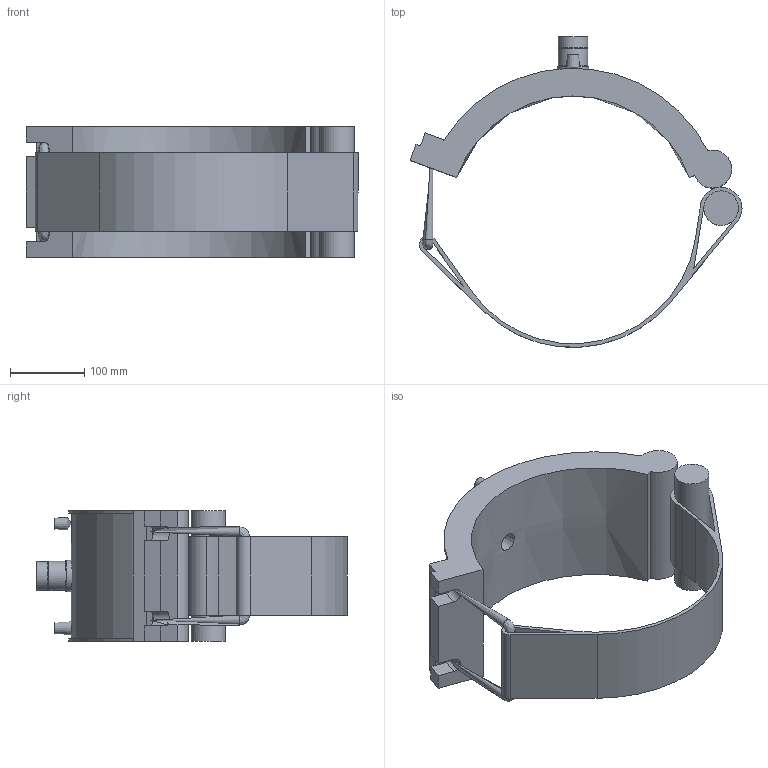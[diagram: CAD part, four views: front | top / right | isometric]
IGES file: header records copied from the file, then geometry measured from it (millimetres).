
Global section: file name: 5938D01312045.ipt; native system: Autodesk Inventor 2019; preprocessor: unknown; author: KIM; date: 20210830.101152; units: inch
Bounding box: 447.33 x 418.67 x 176.02 mm (x, y, z)
Volume: 3947718.3 mm3; surface area: 464404 mm2
Topology: 2 solids, 2 shells, 78 faces, 198 edges, 130 vertices
Faces by surface type: plane 42, cylinder 19, revolution 11, cone 5, bspline 1
Full cylindrical faces by diameter (mm): 4 x2, 13.352 x2, 38.378 x1, 39.378 x2, 42.407 x1, 46.475 x1
